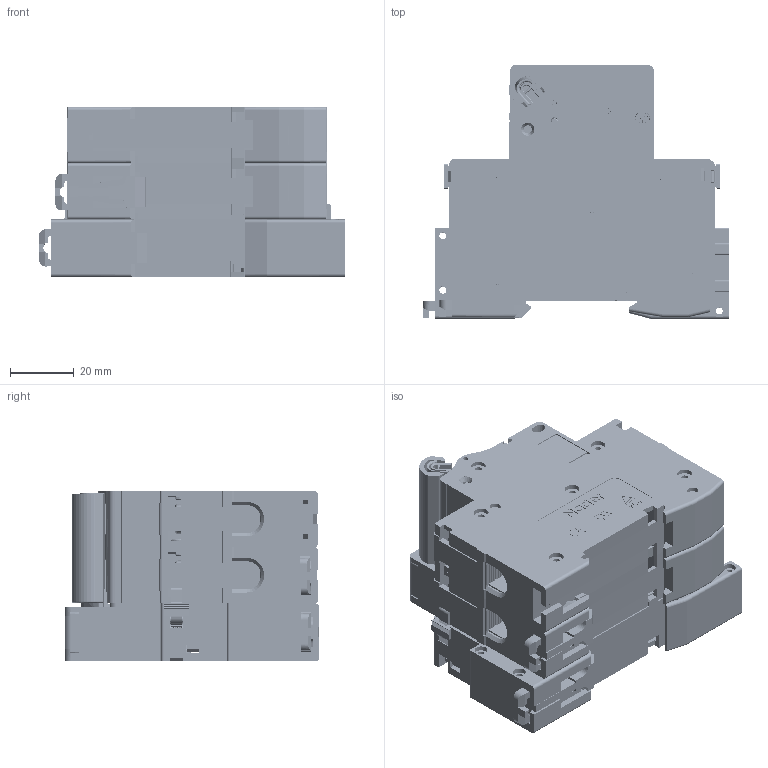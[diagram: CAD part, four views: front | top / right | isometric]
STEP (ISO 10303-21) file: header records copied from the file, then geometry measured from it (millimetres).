
FILE_DESCRIPTION (( 'STEP AP203' ), '1' );
FILE_NAME ('NDB2(T,Z,TS)-63 Tm2(2P)-3D耀倰芞.STEP', '2024-06-07T08:00:04', ( '' ), ( '' ), 'SwSTEP 2.0', 'SolidWorks 2018', '' );
FILE_SCHEMA (( 'CONFIG_CONTROL_DESIGN' ));
Length unit declared in the file: millimetre
Products named in the file (41): WL8.240.097.STEP; 3WL8.024.752-1.STEP; WL8.140.123G.STEP; WL8.240.098.STEP; WL8.205.362.STEP; BTE-P.STEP; WL8.205.364.STEP; NDB2(T,Z,TS)-63 Tm2(2P)-3D耀倰芞; 5LD.574.103.STEP; 3WL8.310.247-1.STEP; ______.STEP; WL8.205.361G.STEP; 8LD.315.140.STEP; WL5.140.044.STEP; 8LD.516.135.STEP; 8LD.024.137.STEP; 8LD.143.115.STEP; WL8.140.128__C65).STEP; FK-130PM-16132R11524______.STEP; 8LD.253.129.STEP; Tm2-2軞蚾党耀綴.STEP; WL8.325.035.STEP; 3WL8.261.109G.STEP; 8LD.907.115.STEP; WL8.240.099.STEP; 8LD.039.100.STEP; 8LD.516.163.STEP; 8LD.315.141.STEP; 8LD.253.171.STEP; WL8.240.096.STEP; WL8.246.004.STEP; 3WL8.261.108G.STEP; ________.STEP; WL8.253.058.STEP; 8LD.516.164.STEP; NDB2-63 2p.STEP; WL8.320.007G.STEP; 1p-____.STEP; __________________.STEP; 1p-____-1.STEP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
Assembly tree (56 placements, depth 6):
  NDB2(T,Z,TS)-63 Tm2(2P)-3D耀倰芞
    Tm2-2軞蚾党耀綴.STEP
      WL5.140.044.STEP
        WL8.205.364.STEP
      NDB2-63 2p.STEP
        1p-____.STEP
          5LD.574.103.STEP  x2
            8LD.516.135.STEP
            8LD.907.115.STEP
          8LD.024.137.STEP
          8LD.253.129.STEP
          8LD.315.140.STEP
          8LD.315.141.STEP  x2
          8LD.516.163.STEP
          8LD.516.164.STEP
          8LD.039.100.STEP
        1p-____-1.STEP
          5LD.574.103.STEP  x2
            8LD.516.135.STEP
            8LD.907.115.STEP
          8LD.024.137.STEP
          8LD.253.129.STEP
          8LD.143.115.STEP
          8LD.315.140.STEP
          8LD.315.141.STEP  x2
          8LD.516.163.STEP
          8LD.516.164.STEP
          8LD.039.100.STEP
        8LD.253.171.STEP
      WL8.205.364.STEP  x3
      WL8.325.035.STEP
      WL8.205.361G.STEP
      3WL8.024.752-1.STEP
      WL8.320.007G.STEP
      3WL8.261.108G.STEP
      WL8.140.123G.STEP  x2
      3WL8.310.247-1.STEP
      WL8.205.362.STEP
      WL8.253.058.STEP
      ________.STEP
      BTE-P.STEP
      ______.STEP
      3WL8.261.109G.STEP
      FK-130PM-16132R11524______.STEP
      WL8.140.128__C65).STEP
      WL8.240.096.STEP
      WL8.240.097.STEP
      WL8.240.098.STEP
      WL8.240.099.STEP
      WL8.246.004.STEP
      __________________.STEP
      FK-130PM-16132R11524______-1-1.STEP
Bounding box: 95.7 x 79.5 x 53.2 mm (x, y, z)
Volume: 210092.3 mm3; surface area: 163622.4 mm2
Topology: 61 solids, 77 shells, 10237 faces, 28540 edges, 18700 vertices
Faces by surface type: plane 5814, cylinder 3049, bspline 641, cone 621, torus 90, sphere 22
Entity records: 404899 total; most frequent: CARTESIAN_POINT 234318, ORIENTED_EDGE 36492, DIRECTION 32129, EDGE_CURVE 18246, LINE 11985, VECTOR 11985, VERTEX_POINT 11974, AXIS2_PLACEMENT_3D 10072
